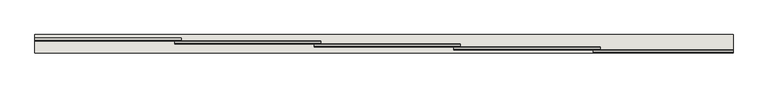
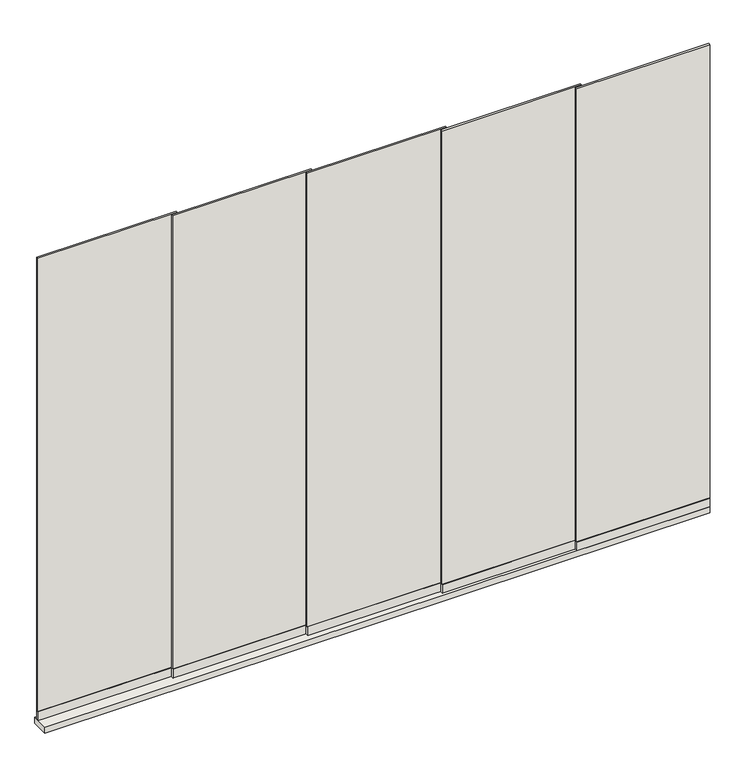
"""IFC4 building model written with IfcOpenShell, lengths in millimetres: wall geometry, Renson_Amani_Glass_Sliding_Panel : Renson_Amani_Glass_Sliding_Panel."""

from ifc_helpers import new_model, si_unit, frame, origin, origin_with_axes, place, context, project, spatial, polyline, outline, extrude, source, transform, mapped, element, save


def wall_4dabd9f5(model_context):
    return source(origin(), model_context, "Body", "SweptSolid", [
        extrude(outline(polyline([(-1435.0, 48.0), (-2210.0, 48.0), (-2210.0, 64.0), (-1435.0, 64.0), (-1435.0, 48.0)])), frame((0.0, 0.0, 35.0), z_axis=(0.0, 0.0, 1.0), x_axis=(1.0, 0.0, 0.0)), (0.0, 0.0, 1.0), 51.0),
        extrude(outline(polyline([(-2175.0, 64.0), (-2950.0, 64.0), (-2950.0, 80.0), (-2175.0, 80.0), (-2175.0, 64.0)])), frame((0.0, 0.0, 35.0), z_axis=(0.0, 0.0, 1.0), x_axis=(1.0, 0.0, 0.0)), (0.0, 0.0, 1.0), 51.0),
        extrude(outline(polyline([(-1435.0, 51.0), (-2210.0, 51.0), (-2210.0, 61.0), (-1435.0, 61.0), (-1435.0, 51.0)])), frame((0.0, 0.0, 86.0), z_axis=(0.0, 0.0, 1.0), x_axis=(1.0, 0.0, 0.0)), (0.0, 0.0, 1.0), 2664.0),
        extrude(outline(polyline([(750.0, 0.0), (-2950.0, 0.0), (-2950.0, 96.0), (750.0, 96.0), (750.0, 0.0)])), origin_with_axes(), (0.0, 0.0, 1.0), 35.0),
        extrude(outline(polyline([(750.0, 3.0), (10.0, 3.0), (10.0, 13.0), (750.0, 13.0), (750.0, 3.0)])), frame((0.0, 0.0, 86.0), z_axis=(0.0, 0.0, 1.0), x_axis=(1.0, 0.0, 0.0)), (0.0, 0.0, 1.0), 2664.0),
        extrude(outline(polyline([(45.0, 19.0), (-730.0, 19.0), (-730.0, 29.0), (45.0, 29.0), (45.0, 19.0)])), frame((0.0, 0.0, 86.0), z_axis=(0.0, 0.0, 1.0), x_axis=(1.0, 0.0, 0.0)), (0.0, 0.0, 1.0), 2664.0),
        extrude(outline(polyline([(-2175.0, 67.0), (-2950.0, 67.0), (-2950.0, 77.0), (-2175.0, 77.0), (-2175.0, 67.0)])), frame((0.0, 0.0, 86.0), z_axis=(0.0, 0.0, 1.0), x_axis=(1.0, 0.0, 0.0)), (0.0, 0.0, 1.0), 2664.0),
        extrude(outline(polyline([(-695.0, 35.0), (-1470.0, 35.0), (-1470.0, 45.0), (-695.0, 45.0), (-695.0, 35.0)])), frame((0.0, 0.0, 86.0), z_axis=(0.0, 0.0, 1.0), x_axis=(1.0, 0.0, 0.0)), (0.0, 0.0, 1.0), 2664.0),
        extrude(outline(polyline([(750.0, 0.0), (10.0, 0.0), (10.0, 16.0), (750.0, 16.0), (750.0, 0.0)])), frame((0.0, 0.0, 35.0), z_axis=(0.0, 0.0, 1.0), x_axis=(1.0, 0.0, 0.0)), (0.0, 0.0, 1.0), 51.0),
        extrude(outline(polyline([(45.0, 16.0), (-730.0, 16.0), (-730.0, 32.0), (45.0, 32.0), (45.0, 16.0)])), frame((0.0, 0.0, 35.0), z_axis=(0.0, 0.0, 1.0), x_axis=(1.0, 0.0, 0.0)), (0.0, 0.0, 1.0), 51.0),
        extrude(outline(polyline([(-695.0, 32.0), (-1470.0, 32.0), (-1470.0, 48.0), (-695.0, 48.0), (-695.0, 32.0)])), frame((0.0, 0.0, 35.0), z_axis=(0.0, 0.0, 1.0), x_axis=(1.0, 0.0, 0.0)), (0.0, 0.0, 1.0), 51.0),
    ])


if __name__ == "__main__":
    model = new_model("IFC4")
    model_context = context("Model", 3, world=origin())
    ifc_project = project(units=[si_unit("LENGTHUNIT", "METRE", prefix="MILLI")], contexts=[model_context])
    site = spatial("IfcSite", under=ifc_project)
    building = spatial("IfcBuilding", under=site)
    placement = place(None, origin())
    wall_shape = wall_4dabd9f5(model_context)
    element("IfcWall", 1, ObjectType="Renson_Amani_Glass_Sliding_Panel : Renson_Amani_Glass_Sliding_Panel", at=placement, inside=building, context=model_context, shape_type="MappedRepresentation", body=[
        mapped(wall_shape, transform((0.0, 0.0, 0.0), x_axis=(1.0, 0.0, 0.0), y_axis=(0.0, 1.0, 0.0), z_axis=(0.0, 0.0, 1.0))),
    ])
    save(model, "model.ifc")
